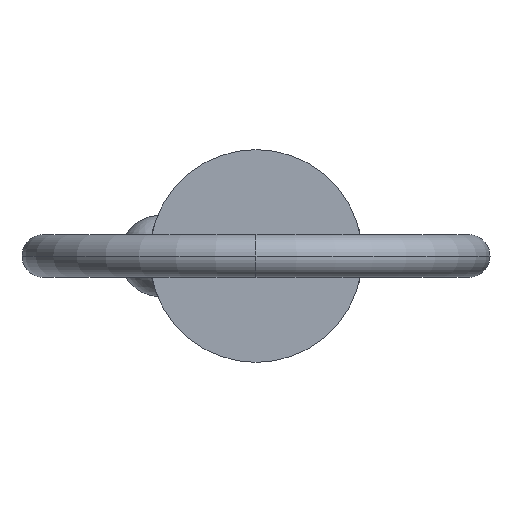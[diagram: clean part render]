
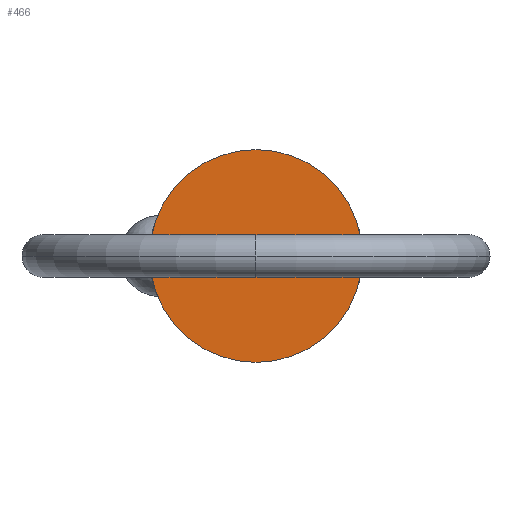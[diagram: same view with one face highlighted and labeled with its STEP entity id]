
A CAD part, left-side view. The second image highlights one B-rep face of the part: STEP entity #466.
In plain terms, the highlighted planar face has unit normal (-1, 0, 0).
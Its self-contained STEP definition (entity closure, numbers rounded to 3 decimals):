
#22 = CARTESIAN_POINT ( 'NONE',  ( 0., 0., -9.525 ) ) ;
#24 = CIRCLE ( 'NONE', #252, 9.525 ) ;
#135 = VERTEX_POINT ( 'NONE', #22 ) ;
#189 = CARTESIAN_POINT ( 'NONE',  ( 0., 0., 0. ) ) ;
#207 = DIRECTION ( 'NONE',  ( 1., 0., 0. ) ) ;
#250 = EDGE_LOOP ( 'NONE', ( #804, #421 ) ) ;
#252 = AXIS2_PLACEMENT_3D ( 'NONE', #189, #802, #385 ) ;
#280 = DIRECTION ( 'NONE',  ( 0., 0., -1. ) ) ;
#341 = PLANE ( 'NONE',  #886 ) ;
#385 = DIRECTION ( 'NONE',  ( 0., 0., -1. ) ) ;
#406 = CARTESIAN_POINT ( 'NONE',  ( 0., 0., 9.525 ) ) ;
#421 = ORIENTED_EDGE ( 'NONE', *, *, #786, .F. ) ;
#466 = ADVANCED_FACE ( 'NONE', ( #817 ), #341, .T. ) ;
#483 = VERTEX_POINT ( 'NONE', #406 ) ;
#487 = DIRECTION ( 'NONE',  ( -1., 0., 0. ) ) ;
#489 = EDGE_CURVE ( 'NONE', #135, #483, #810, .T. ) ;
#510 = AXIS2_PLACEMENT_3D ( 'NONE', #821, #207, #280 ) ;
#554 = DIRECTION ( 'NONE',  ( 0., 0., 1. ) ) ;
#679 = CARTESIAN_POINT ( 'NONE',  ( 0., 0., 0. ) ) ;
#786 = EDGE_CURVE ( 'NONE', #483, #135, #24, .T. ) ;
#802 = DIRECTION ( 'NONE',  ( 1., 0., 0. ) ) ;
#804 = ORIENTED_EDGE ( 'NONE', *, *, #489, .F. ) ;
#810 = CIRCLE ( 'NONE', #510, 9.525 ) ;
#817 = FACE_OUTER_BOUND ( 'NONE', #250, .T. ) ;
#821 = CARTESIAN_POINT ( 'NONE',  ( 0., 0., 0. ) ) ;
#886 = AXIS2_PLACEMENT_3D ( 'NONE', #679, #487, #554 ) ;
